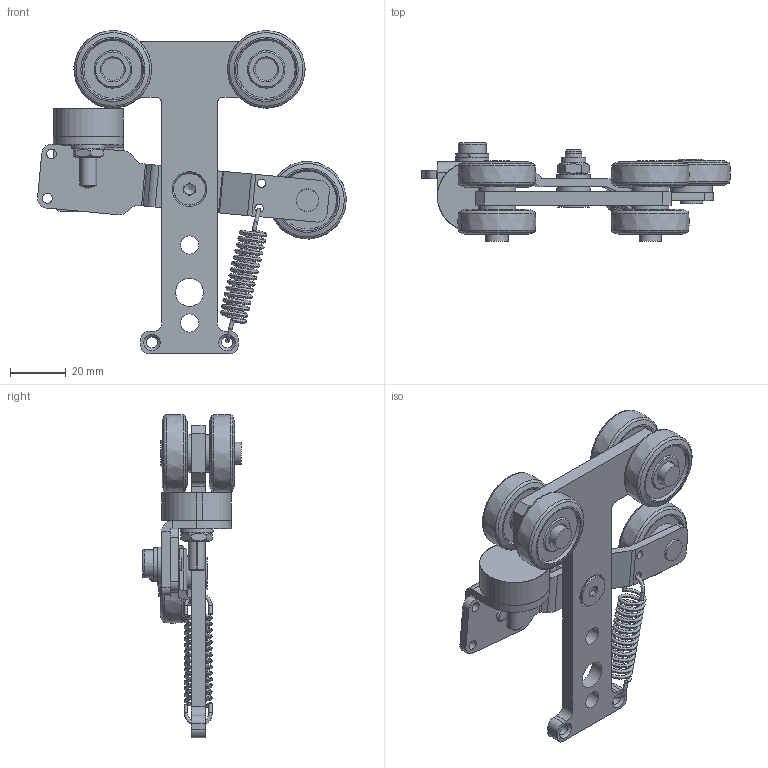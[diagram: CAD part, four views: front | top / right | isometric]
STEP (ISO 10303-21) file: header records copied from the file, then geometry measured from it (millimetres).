
FILE_DESCRIPTION(/* description */ ('Biegebrennteil'),/* implementation_level */ '2;1');
FILE_NAME(/* name */ 'Q:\sge-ma\Produktmanagement-STB\STB\Workspace\TraceParts\Doppelrolle mit Stopper\010332831.stp',/* time_stamp */ '2018-03-07T13:21:42+01:00',/* author */ ('avschreier'),/* organization */ (''),/* preprocessor_version */ 'ST-DEVELOPER v16.1',/* originating_system */ 'Autodesk Inventor 2016',/* authorisation */ '');
FILE_SCHEMA (('CONFIG_CONTROL_DESIGN'));
Length unit declared in the file: millimetre
Products named in the file (18): 337000385; 337000387; 337000388; 337000386; Gutekunst_RZ-109E-10I; 000303235; 000304011; 000226092; 337000384; DIN 128 - A6; DIN_EN_ISO_4035-M6_en; DIN_7984-M6x10_cz; DIN_EN_ISO_10642-M6x20_en; DIN_125-A_6,4_en; DIN_EN_ISO_7040-M6_en; 26106-02501055; ISO 10642  - M6  x  20; 010332831
Assembly tree (29 placements, depth 2):
  010332831
    337000385
    337000387
    337000388
    337000386
    Gutekunst_RZ-109E-10I
    000303235  x5
    000304011  x2
    000226092  x4
    337000384
    DIN 128 - A6  x2
    DIN_EN_ISO_4035-M6_en
    DIN_7984-M6x10_cz
    DIN_EN_ISO_10642-M6x20_en
    DIN_125-A_6,4_en  x3
    DIN_EN_ISO_7040-M6_en
    26106-02501055  x2
    ISO 10642  - M6  x  20
Bounding box: 110.81 x 35.5 x 116 mm (x, y, z)
Volume: 64082.9 mm3; surface area: 39461.3 mm2
Topology: 30 solids, 30 shells, 356 faces, 761 edges, 488 vertices
Faces by surface type: plane 160, cylinder 98, cone 68, torus 21, bspline 7, sphere 2
Full cylindrical faces by diameter (mm): 1.25 x4, 3 x2, 3.5 x2, 4 x2, 4.917 x3, 6 x3, 6.4 x3, 6.5 x6, 8 x8, 8.1 x3, 8.5 x5, 8.9 x1, 10 x5, 11.34 x2, 12 x3, 13.5 x4, 15 x1
Entity records: 9868 total; most frequent: CARTESIAN_POINT 4240, DIRECTION 1174, ORIENTED_EDGE 908, AXIS2_PLACEMENT_3D 486, EDGE_CURVE 454, EDGE_LOOP 374, VERTEX_POINT 338, FACE_OUTER_BOUND 240
